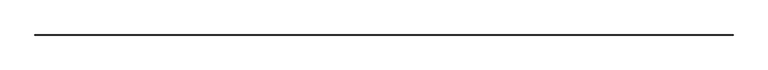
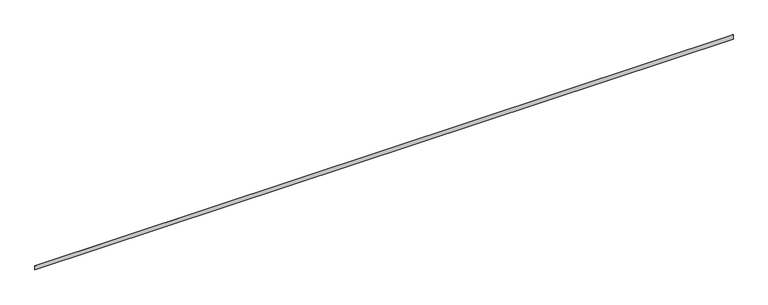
"""IFC4 building model written with IfcOpenShell, lengths in millimetres: proxy geometry, Electrical_Installation_Hager_Partition-Wall : Electrical_Installation_Hager_Partition-Wall."""

from ifc_helpers import new_model, si_unit, frame, origin, place, context, project, spatial, polyline, outline, extrude, source, transform, mapped, element, save


def electrical_fixtures_32676175(model_context):
    return source(origin(), model_context, "Body", "SweptSolid", [
        extrude(outline(polyline([(9709.0, 71.0), (9709.0, 69.0), (0.0, 69.0), (0.0, 71.0), (9709.0, 71.0)])), frame((0.0, 0.0, -32.5053974), z_axis=(0.0, 0.0, 1.0), x_axis=(1.0, 0.0, 0.0)), (0.0, 0.0, 1.0), 63.0),
    ])


if __name__ == "__main__":
    model = new_model("IFC4")
    model_context = context("Model", 3, world=origin())
    ifc_project = project(units=[si_unit("LENGTHUNIT", "METRE", prefix="MILLI")], contexts=[model_context])
    site = spatial("IfcSite", under=ifc_project)
    building = spatial("IfcBuilding", under=site)
    placement = place(None, origin())
    electrical_fixtures_shape = electrical_fixtures_32676175(model_context)
    element("IfcBuildingElementProxy", 1, Name="Electrical_Installation_Hager_Partition-Wall : Electrical_Installation_Hager_Partition-Wall", ObjectType="Electrical_Installation_Hager_Partition-Wall : Electrical_Installation_Hager_Partition-Wall", at=placement, inside=building, context=model_context, shape_type="MappedRepresentation", body=[
        mapped(electrical_fixtures_shape, transform((0.0, 0.0, 0.0), x_axis=(1.0, 0.0, 0.0), y_axis=(0.0, 1.0, 0.0), z_axis=(0.0, 0.0, 1.0))),
    ])
    save(model, "model.ifc")
